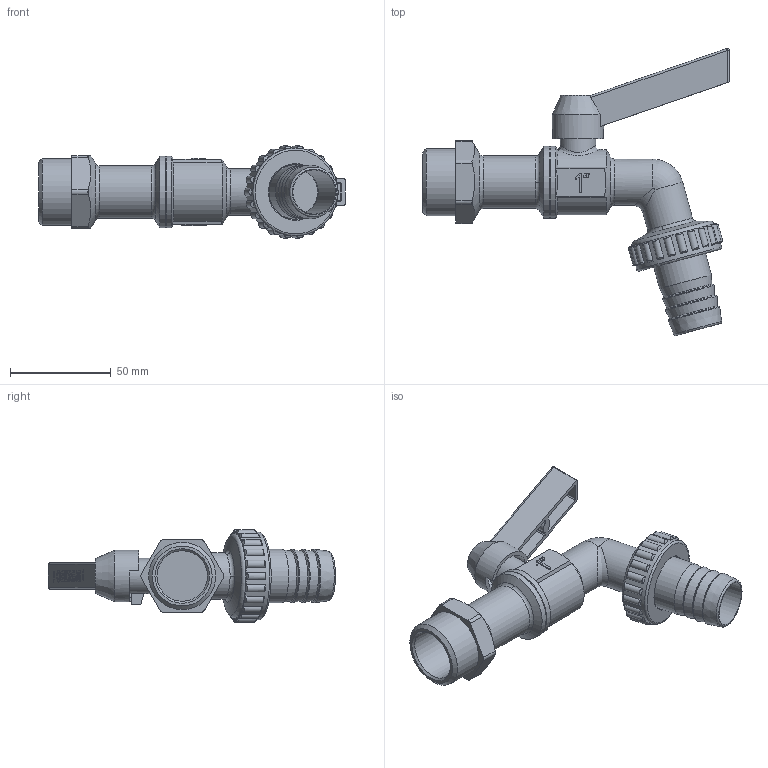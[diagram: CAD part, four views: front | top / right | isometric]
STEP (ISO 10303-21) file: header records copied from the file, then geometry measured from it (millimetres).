
FILE_DESCRIPTION(('STEP AP203'), '1');
FILE_NAME('VT.051.N.06', '', ('UNSPECIFIED'), ('UNSPECIFIED'), 'C3D Converter', 'C3D Toolkit', '');
FILE_SCHEMA(('CONFIG_CONTROL_DESIGN'));
Length unit declared in the file: millimetre
Products named in the file (1): ВР.491811.016.000 СБ
Bounding box: 152 x 142.13 x 45.57 mm (x, y, z)
Volume: 123318.8 mm3; surface area: 37519.5 mm2
Topology: 1 solids, 8 shells, 558 faces, 1389 edges, 879 vertices
Faces by surface type: plane 269, cylinder 103, extrusion 82, cone 66, torus 17, bspline 11, sphere 10
Full cylindrical faces by diameter (mm): 8.5 x1, 9.5 x1, 10 x1, 14 x1, 17.5 x1, 21.5 x1, 22 x1, 23 x2, 23.3 x1, 25 x1, 25.5 x1, 26 x1, 26.5 x4, 27.5 x1, 33.249 x1, 35.5 x2, 41.91 x1, 43.5 x1
Entity records: 21269 total; most frequent: CARTESIAN_POINT 8732, ORIENTED_EDGE 2656, DIRECTION 2284, EDGE_CURVE 1328, VERTEX_POINT 879, VECTOR 820, LINE 738, AXIS2_PLACEMENT_3D 732
